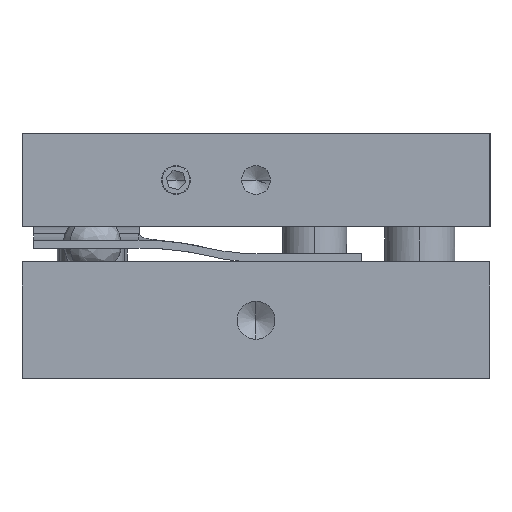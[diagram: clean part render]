
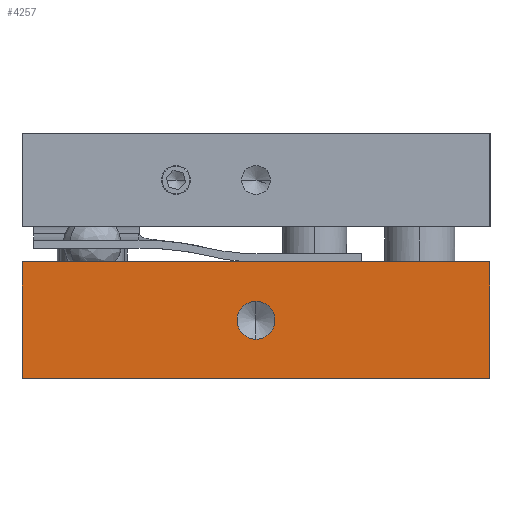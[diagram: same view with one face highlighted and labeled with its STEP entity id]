
A CAD part, front view. The second image highlights one B-rep face of the part: STEP entity #4257.
In plain terms, the highlighted planar face has unit normal (0, -1, 0).
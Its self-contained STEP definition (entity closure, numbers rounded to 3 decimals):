
#991 = VERTEX_POINT ( 'NONE', #14063 ) ;
#1019 = VERTEX_POINT ( 'NONE', #14155 ) ;
#1020 = EDGE_CURVE ( 'NONE', #1019, #991, #14140, .T. ) ;
#3709 = EDGE_CURVE ( 'NONE', #991, #1019, #21892, .T. ) ;
#3900 = VERTEX_POINT ( 'NONE', #22007 ) ;
#3902 = EDGE_CURVE ( 'NONE', #3903, #3900, #22006, .T. ) ;
#3903 = VERTEX_POINT ( 'NONE', #22002 ) ;
#4189 = ORIENTED_EDGE ( 'NONE', *, *, #1020, .T. ) ;
#4190 = ORIENTED_EDGE ( 'NONE', *, *, #3709, .T. ) ;
#4197 = EDGE_CURVE ( 'NONE', #4198, #3903, #22659, .T. ) ;
#4198 = VERTEX_POINT ( 'NONE', #22655 ) ;
#4257 = ADVANCED_FACE ( 'NONE', ( #22785, #22784 ), #22783, .T. ) ;
#4258 = EDGE_LOOP ( 'NONE', ( #4259, #4260, #4263, #4265 ) ) ;
#4259 = ORIENTED_EDGE ( 'NONE', *, *, #3902, .T. ) ;
#4260 = ORIENTED_EDGE ( 'NONE', *, *, #4261, .F. ) ;
#4261 = EDGE_CURVE ( 'NONE', #4262, #3900, #22778, .T. ) ;
#4262 = VERTEX_POINT ( 'NONE', #22774 ) ;
#4263 = ORIENTED_EDGE ( 'NONE', *, *, #4264, .F. ) ;
#4264 = EDGE_CURVE ( 'NONE', #4198, #4262, #22773, .T. ) ;
#4265 = ORIENTED_EDGE ( 'NONE', *, *, #4197, .T. ) ;
#4266 = EDGE_LOOP ( 'NONE', ( #4189, #4190 ) ) ;
#14063 = CARTESIAN_POINT ( 'NONE',  ( 18.379, 0., 5. ) ) ;
#14136 = DIRECTION ( 'NONE',  ( 1., 0., 0. ) ) ;
#14137 = DIRECTION ( 'NONE',  ( 0., 1., 0. ) ) ;
#14138 = CARTESIAN_POINT ( 'NONE',  ( 20., 0., 5. ) ) ;
#14139 = AXIS2_PLACEMENT_3D ( 'NONE', #14138, #14137, #14136 ) ;
#14140 = CIRCLE ( 'NONE', #14139, 1.621 ) ;
#14155 = CARTESIAN_POINT ( 'NONE',  ( 21.621, 0., 5. ) ) ;
#21888 = DIRECTION ( 'NONE',  ( 1., 0., 0. ) ) ;
#21889 = DIRECTION ( 'NONE',  ( 0., 1., 0. ) ) ;
#21890 = CARTESIAN_POINT ( 'NONE',  ( 20., 0., 5. ) ) ;
#21891 = AXIS2_PLACEMENT_3D ( 'NONE', #21890, #21889, #21888 ) ;
#21892 = CIRCLE ( 'NONE', #21891, 1.621 ) ;
#22002 = CARTESIAN_POINT ( 'NONE',  ( 0., 0., 0. ) ) ;
#22003 = DIRECTION ( 'NONE',  ( 1., 0., 0. ) ) ;
#22004 = VECTOR ( 'NONE', #22003, 39.37 ) ;
#22005 = CARTESIAN_POINT ( 'NONE',  ( 40., 0., 0. ) ) ;
#22006 = LINE ( 'NONE', #22005, #22004 ) ;
#22007 = CARTESIAN_POINT ( 'NONE',  ( 40., 0., 0. ) ) ;
#22655 = CARTESIAN_POINT ( 'NONE',  ( 0., 0., 10. ) ) ;
#22656 = DIRECTION ( 'NONE',  ( 0., 0., -1. ) ) ;
#22657 = VECTOR ( 'NONE', #22656, 39.37 ) ;
#22658 = CARTESIAN_POINT ( 'NONE',  ( 0., 0., 0. ) ) ;
#22659 = LINE ( 'NONE', #22658, #22657 ) ;
#22770 = DIRECTION ( 'NONE',  ( 1., 0., 0. ) ) ;
#22771 = VECTOR ( 'NONE', #22770, 39.37 ) ;
#22772 = CARTESIAN_POINT ( 'NONE',  ( 14.977, 0., 10. ) ) ;
#22773 = LINE ( 'NONE', #22772, #22771 ) ;
#22774 = CARTESIAN_POINT ( 'NONE',  ( 40., 0., 10. ) ) ;
#22775 = DIRECTION ( 'NONE',  ( 0., 0., -1. ) ) ;
#22776 = VECTOR ( 'NONE', #22775, 39.37 ) ;
#22777 = CARTESIAN_POINT ( 'NONE',  ( 40., 0., 0. ) ) ;
#22778 = LINE ( 'NONE', #22777, #22776 ) ;
#22779 = DIRECTION ( 'NONE',  ( 1., 0., 0. ) ) ;
#22780 = DIRECTION ( 'NONE',  ( 0., -1., 0. ) ) ;
#22781 = CARTESIAN_POINT ( 'NONE',  ( 40., 0., 0. ) ) ;
#22782 = AXIS2_PLACEMENT_3D ( 'NONE', #22781, #22780, #22779 ) ;
#22783 = PLANE ( 'NONE',  #22782 ) ;
#22784 = FACE_BOUND ( 'NONE', #4266, .T. ) ;
#22785 = FACE_OUTER_BOUND ( 'NONE', #4258, .T. ) ;
